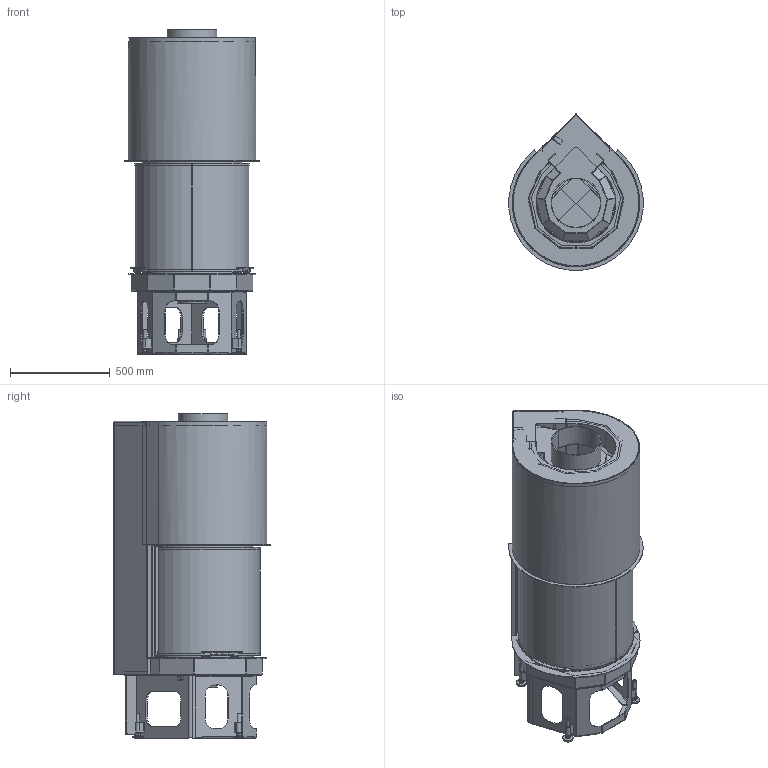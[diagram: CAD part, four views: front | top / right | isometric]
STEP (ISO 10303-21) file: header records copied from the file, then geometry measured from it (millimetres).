
FILE_DESCRIPTION(/* description */ (''),/* implementation_level */ '2;1');
FILE_NAME(/* name */ 'C:\Users\mar\Desktop\2015-01538.stp',/* time_stamp */ '2015-07-07T16:21:58+02:00',/* author */ ('mar'),/* organization */ (''),/* preprocessor_version */ 'ST-DEVELOPER v15.2',/* originating_system */ 'Autodesk Inventor 2014',/* authorisation */ '');
FILE_SCHEMA (('AUTOMOTIVE_DESIGN { 1 0 10303 214 3 1 1 }'));
Length unit declared in the file: millimetre
Products named in the file (5): 2013-01179; 2013-01178; 2013-01177; 2013-01176; 2013-01180
Bounding box: 673.43 x 784.66 x 1627.5 mm (x, y, z)
Volume: 38319797.5 mm3; surface area: 17043455.3 mm2
Topology: 18 solids, 20 shells, 5834 faces, 17111 edges, 10844 vertices
Faces by surface type: plane 3502, cylinder 2075, bspline 136, cone 109, torus 6, sphere 6
Full cylindrical faces by diameter (mm): 1.5 x2, 2.9 x2, 6 x4, 8 x2, 10 x2, 12 x2, 16 x8, 22 x1, 30 x4, 144 x1, 148 x1, 150 x1, 162 x1, 244 x1, 246 x1, 250 x1
Entity records: 206198 total; most frequent: CARTESIAN_POINT 43744, ORIENTED_EDGE 34094, DIRECTION 32154, EDGE_CURVE 17020, LINE 11220, VECTOR 11220, VERTEX_POINT 10817, AXIS2_PLACEMENT_3D 10467
